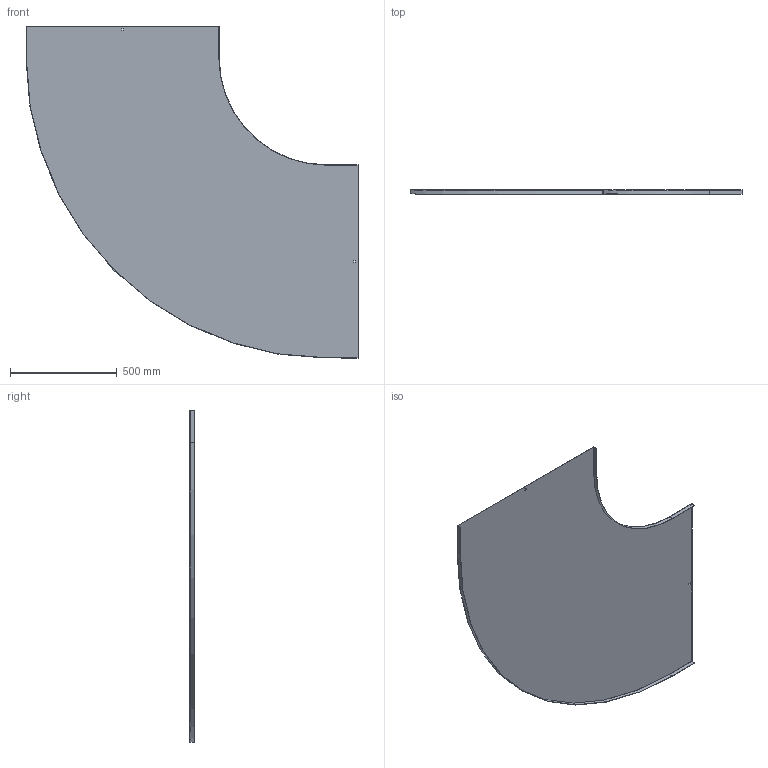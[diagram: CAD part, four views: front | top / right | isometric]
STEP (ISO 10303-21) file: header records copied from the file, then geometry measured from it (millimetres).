
FILE_DESCRIPTION (( 'STEP AP214' ), '1' );
FILE_NAME ('10N5R900.step', '2025-02-21T10:53:37', ( '' ), ( '' ), 'SwSTEP 2.0', 'SolidWorks 2023', '' );
FILE_SCHEMA (( 'AUTOMOTIVE_DESIGN' ));
Length unit declared in the file: millimetre
Products named in the file (1): 10N5R900
Bounding box: 1551.5 x 20 x 1551.5 mm (x, y, z)
Volume: 2526906.2 mm3; surface area: 3377498 mm2
Topology: 1 solids, 1 shells, 26 faces, 72 edges, 48 vertices
Faces by surface type: plane 22, cylinder 4
Entity records: 855 total; most frequent: CARTESIAN_POINT 147, ORIENTED_EDGE 144, DIRECTION 134, EDGE_CURVE 72, LINE 64, VECTOR 64, VERTEX_POINT 48, AXIS2_PLACEMENT_3D 35
